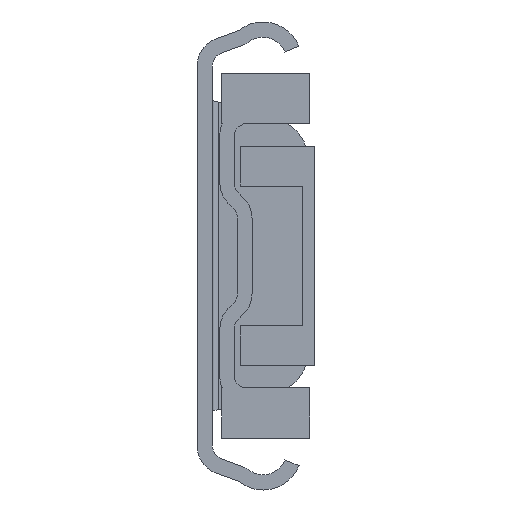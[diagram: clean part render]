
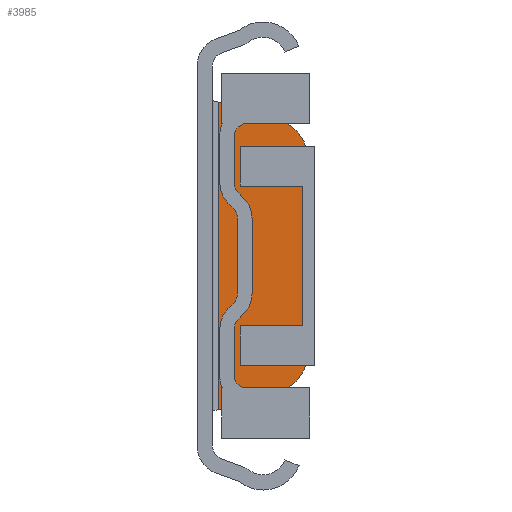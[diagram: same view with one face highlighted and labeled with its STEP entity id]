
A CAD part, front view. The second image highlights one B-rep face of the part: STEP entity #3985.
In plain terms, the highlighted planar face has unit normal (0, -1, 0).
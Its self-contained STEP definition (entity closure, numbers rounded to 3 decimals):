
#360=LINE('',#6934,#745);
#361=LINE('',#6939,#746);
#362=LINE('',#6943,#747);
#363=LINE('',#6945,#748);
#745=VECTOR('',#5765,1000.);
#746=VECTOR('',#5768,1000.);
#747=VECTOR('',#5771,1000.);
#748=VECTOR('',#5772,1000.);
#896=PLANE('',#4752);
#1807=ORIENTED_EDGE('',*,*,#2522,.F.);
#1808=ORIENTED_EDGE('',*,*,#2523,.F.);
#1809=ORIENTED_EDGE('',*,*,#2524,.F.);
#1810=ORIENTED_EDGE('',*,*,#2525,.F.);
#1811=ORIENTED_EDGE('',*,*,#2526,.F.);
#1812=ORIENTED_EDGE('',*,*,#2527,.F.);
#2522=EDGE_CURVE('',#2950,#2951,#360,.T.);
#2523=EDGE_CURVE('',#2952,#2950,#3166,.F.);
#2524=EDGE_CURVE('',#2953,#2952,#361,.T.);
#2525=EDGE_CURVE('',#2954,#2953,#3167,.F.);
#2526=EDGE_CURVE('',#2955,#2954,#362,.T.);
#2527=EDGE_CURVE('',#2951,#2955,#363,.T.);
#2950=VERTEX_POINT('',#6935);
#2951=VERTEX_POINT('',#6936);
#2952=VERTEX_POINT('',#6938);
#2953=VERTEX_POINT('',#6940);
#2954=VERTEX_POINT('',#6942);
#2955=VERTEX_POINT('',#6944);
#3166=CIRCLE('',#4753,8.);
#3167=CIRCLE('',#4754,8.);
#3409=EDGE_LOOP('',(#1807,#1808,#1809,#1810,#1811,#1812));
#3676=FACE_BOUND('',#3409,.T.);
#3985=ADVANCED_FACE('',(#3676),#896,.T.);
#4752=AXIS2_PLACEMENT_3D('',#6933,#5763,#5764);
#4753=AXIS2_PLACEMENT_3D('',#6937,#5766,#5767);
#4754=AXIS2_PLACEMENT_3D('',#6941,#5769,#5770);
#5763=DIRECTION('',(0.,-1.,0.));
#5764=DIRECTION('',(0.,0.,-1.));
#5765=DIRECTION('',(-0.966,0.,-0.259));
#5766=DIRECTION('',(0.,-1.,0.));
#5767=DIRECTION('',(0.,0.,-1.));
#5768=DIRECTION('',(0.,0.,-1.));
#5769=DIRECTION('',(0.,-1.,0.));
#5770=DIRECTION('',(0.,0.,-1.));
#5771=DIRECTION('',(0.966,0.,-0.259));
#5772=DIRECTION('',(0.,0.,1.));
#6933=CARTESIAN_POINT('',(12.9,1165.9,14.965));
#6934=CARTESIAN_POINT('',(22.316,1165.9,-20.174));
#6935=CARTESIAN_POINT('',(12.471,1165.9,-22.812));
#6936=CARTESIAN_POINT('',(3.5,1165.9,-25.216));
#6937=CARTESIAN_POINT('',(10.4,1165.9,-15.085));
#6938=CARTESIAN_POINT('',(18.4,1165.9,-15.085));
#6939=CARTESIAN_POINT('',(18.4,1165.9,14.965));
#6940=CARTESIAN_POINT('',(18.4,1165.9,15.085));
#6941=CARTESIAN_POINT('',(10.4,1165.9,15.085));
#6942=CARTESIAN_POINT('',(12.471,1165.9,22.812));
#6943=CARTESIAN_POINT('',(14.833,1165.9,22.179));
#6944=CARTESIAN_POINT('',(3.5,1165.9,25.216));
#6945=CARTESIAN_POINT('',(3.5,1165.9,-25.766));
